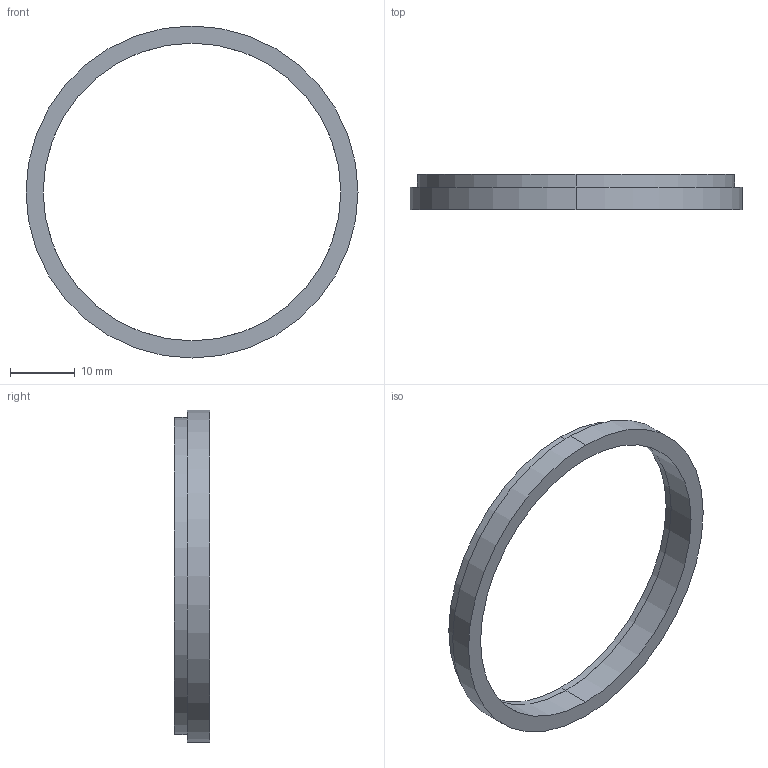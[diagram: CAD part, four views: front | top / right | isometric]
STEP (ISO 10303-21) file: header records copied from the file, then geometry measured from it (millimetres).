
FILE_DESCRIPTION (( 'STEP AP214' ), '1' );
FILE_NAME ('SD49-46.STEP', '2019-04-03T14:59:05', ( '' ), ( '' ), 'SwSTEP 2.0', 'SolidWorks 2019', '' );
FILE_SCHEMA (( 'AUTOMOTIVE_DESIGN' ));
Length unit declared in the file: millimetre
Products named in the file (1): SD49-46
Bounding box: 51.3 x 5.44 x 51.3 mm (x, y, z)
Volume: 1841.7 mm3; surface area: 2459.9 mm2
Topology: 1 solids, 1 shells, 12 faces, 24 edges, 16 vertices
Faces by surface type: cylinder 8, plane 4
Entity records: 362 total; most frequent: DIRECTION 66, CARTESIAN_POINT 53, ORIENTED_EDGE 48, AXIS2_PLACEMENT_3D 29, EDGE_CURVE 24, EDGE_LOOP 16, VERTEX_POINT 16, CIRCLE 16
